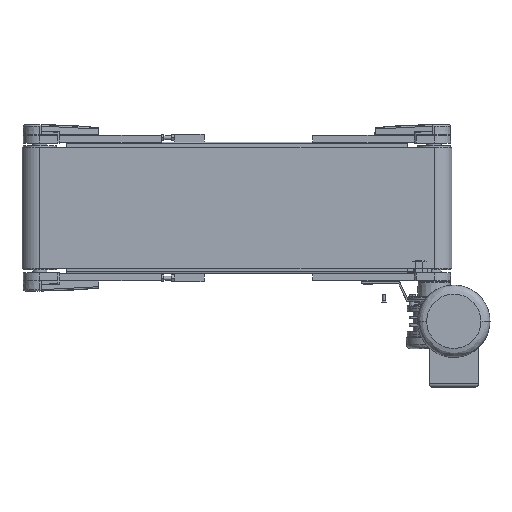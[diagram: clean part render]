
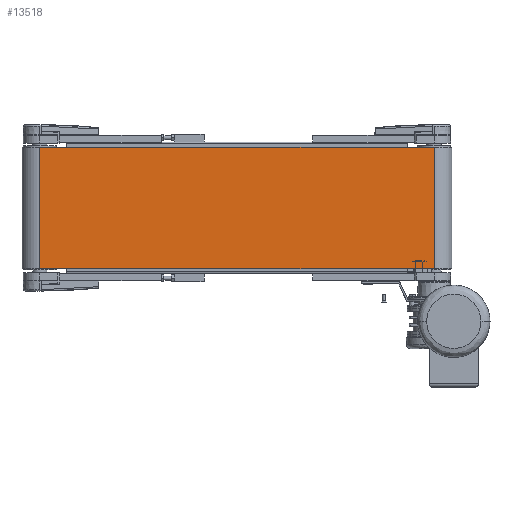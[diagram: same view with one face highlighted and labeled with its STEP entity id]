
A CAD part, front view. The second image highlights one B-rep face of the part: STEP entity #13518.
In plain terms, the highlighted planar face has unit normal (0, -1, 0).
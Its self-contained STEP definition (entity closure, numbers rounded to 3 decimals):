
#3752 = CARTESIAN_POINT ( 'NONE',  ( -300., -27., 92.5 ) ) ;
#5545 = FACE_OUTER_BOUND ( 'NONE', #112379, .T. ) ;
#12495 = EDGE_CURVE ( 'NONE', #17296, #93665, #92792, .T. ) ;
#13518 = ADVANCED_FACE ( 'NONE', ( #5545 ), #23698, .F. ) ;
#14140 = CARTESIAN_POINT ( 'NONE',  ( 300., -27., -92.5 ) ) ;
#17296 = VERTEX_POINT ( 'NONE', #3752 ) ;
#19779 = VERTEX_POINT ( 'NONE', #49739 ) ;
#21389 = DIRECTION ( 'NONE',  ( 1., 0., 0. ) ) ;
#23698 = PLANE ( 'NONE',  #57939 ) ;
#25154 = VECTOR ( 'NONE', #64312, 1000. ) ;
#25892 = CARTESIAN_POINT ( 'NONE',  ( 300., -27., 92.5 ) ) ;
#27954 = EDGE_CURVE ( 'NONE', #93665, #42428, #74254, .T. ) ;
#31201 = VECTOR ( 'NONE', #101788, 1000. ) ;
#31874 = DIRECTION ( 'NONE',  ( 0., 1., 0. ) ) ;
#35743 = EDGE_CURVE ( 'NONE', #17296, #19779, #65781, .T. ) ;
#39103 = CARTESIAN_POINT ( 'NONE',  ( -300., -27., -92.5 ) ) ;
#41222 = DIRECTION ( 'NONE',  ( 0., 0., 1. ) ) ;
#42428 = VERTEX_POINT ( 'NONE', #14140 ) ;
#42899 = VECTOR ( 'NONE', #102108, 1000. ) ;
#49739 = CARTESIAN_POINT ( 'NONE',  ( -300., -27., -92.5 ) ) ;
#55293 = ORIENTED_EDGE ( 'NONE', *, *, #64046, .T. ) ;
#57939 = AXIS2_PLACEMENT_3D ( 'NONE', #58803, #31874, #41222 ) ;
#58803 = CARTESIAN_POINT ( 'NONE',  ( -300., -27., 92.5 ) ) ;
#64046 = EDGE_CURVE ( 'NONE', #19779, #42428, #83051, .T. ) ;
#64312 = DIRECTION ( 'NONE',  ( 0., 0., -1. ) ) ;
#65781 = LINE ( 'NONE', #75158, #42899 ) ;
#67371 = ORIENTED_EDGE ( 'NONE', *, *, #27954, .F. ) ;
#74254 = LINE ( 'NONE', #92396, #25154 ) ;
#75158 = CARTESIAN_POINT ( 'NONE',  ( -300., -27., 92.5 ) ) ;
#75723 = ORIENTED_EDGE ( 'NONE', *, *, #12495, .F. ) ;
#83051 = LINE ( 'NONE', #39103, #31201 ) ;
#92396 = CARTESIAN_POINT ( 'NONE',  ( 300., -27., 92.5 ) ) ;
#92792 = LINE ( 'NONE', #110948, #98923 ) ;
#93665 = VERTEX_POINT ( 'NONE', #25892 ) ;
#97373 = ORIENTED_EDGE ( 'NONE', *, *, #35743, .T. ) ;
#98923 = VECTOR ( 'NONE', #21389, 1000. ) ;
#101788 = DIRECTION ( 'NONE',  ( 1., 0., 0. ) ) ;
#102108 = DIRECTION ( 'NONE',  ( 0., 0., -1. ) ) ;
#110948 = CARTESIAN_POINT ( 'NONE',  ( -300., -27., 92.5 ) ) ;
#112379 = EDGE_LOOP ( 'NONE', ( #55293, #67371, #75723, #97373 ) ) ;
